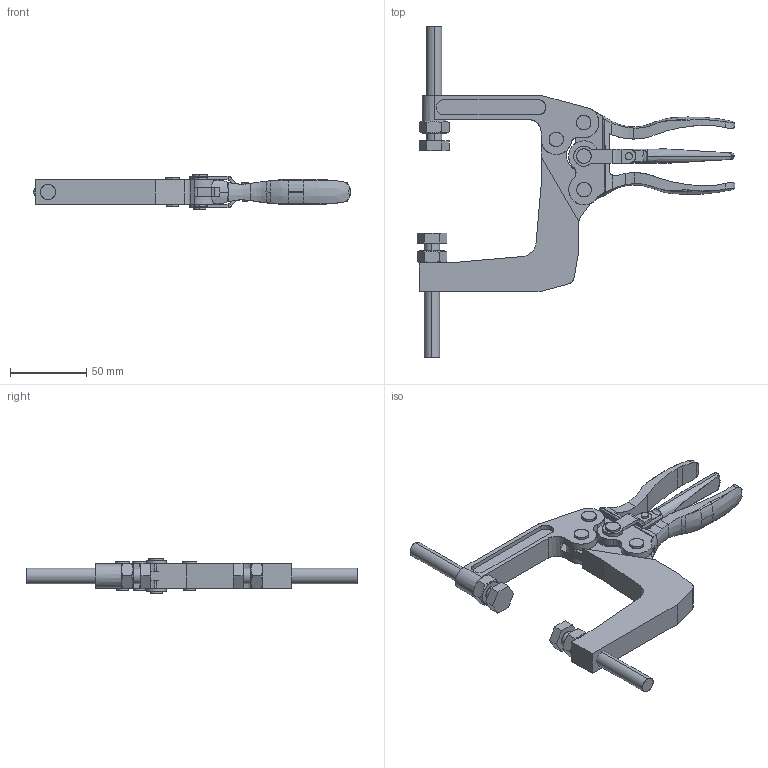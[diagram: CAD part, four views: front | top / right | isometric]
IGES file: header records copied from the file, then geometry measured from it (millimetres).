
Start section: SolidWorks IGES file using analytic representation for surfaces
Global section: file name: C:\Projetos\Grampos\Alicates\KFA-90\KFA-90.IGS; native system: SolidWorks 2013; preprocessor: SolidWorks 2013; author: Ricardo; date: 140904.151726; units: millimetre
Bounding box: 208.52 x 217 x 23.5 mm (x, y, z)
Surface area: 57366.9 mm2 (no closed solid volume)
Topology: 0 solids, 0 shells, 400 faces, 6100 edges, 6092 vertices
Faces by surface type: revolution 222, bspline 178
